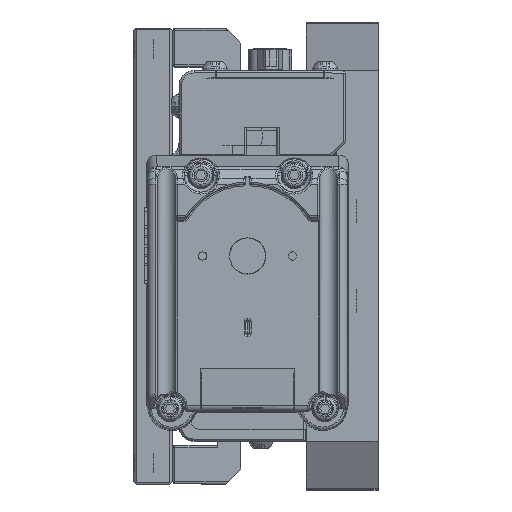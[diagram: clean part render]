
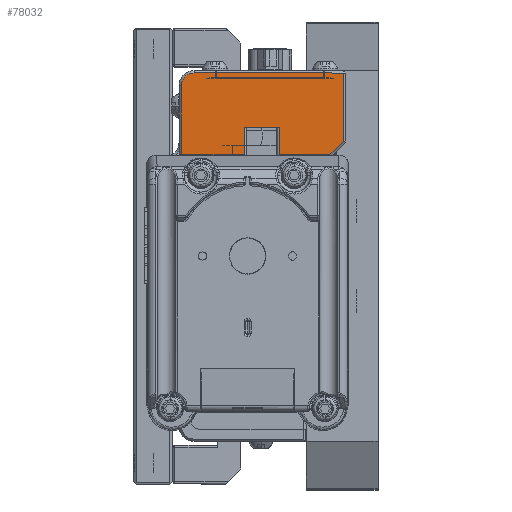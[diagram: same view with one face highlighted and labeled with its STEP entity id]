
A CAD part, left-side view. The second image highlights one B-rep face of the part: STEP entity #78032.
In plain terms, the highlighted planar face has unit normal (-1, 0, 0).
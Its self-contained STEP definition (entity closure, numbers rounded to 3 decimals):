
#346 = VERTEX_POINT ( 'NONE', #107743 ) ;
#4033 = VERTEX_POINT ( 'NONE', #66293 ) ;
#5522 = VECTOR ( 'NONE', #71661, 1000. ) ;
#5894 = VERTEX_POINT ( 'NONE', #94942 ) ;
#6161 = CARTESIAN_POINT ( 'NONE',  ( -73.66, 20.904, 78.486 ) ) ;
#7474 = VERTEX_POINT ( 'NONE', #53202 ) ;
#12364 = FACE_OUTER_BOUND ( 'NONE', #48835, .T. ) ;
#12889 = VERTEX_POINT ( 'NONE', #24476 ) ;
#16060 = ORIENTED_EDGE ( 'NONE', *, *, #55727, .F. ) ;
#19484 = VECTOR ( 'NONE', #31447, 1000. ) ;
#22495 = VECTOR ( 'NONE', #57462, 1000. ) ;
#22528 = VECTOR ( 'NONE', #121976, 1000. ) ;
#23135 = CARTESIAN_POINT ( 'NONE',  ( -73.66, 20.904, 66.548 ) ) ;
#23274 = VERTEX_POINT ( 'NONE', #92313 ) ;
#24476 = CARTESIAN_POINT ( 'NONE',  ( -73.66, 7.315, 77.978 ) ) ;
#24646 = EDGE_CURVE ( 'NONE', #36912, #38122, #68538, .T. ) ;
#25882 = ORIENTED_EDGE ( 'NONE', *, *, #47418, .T. ) ;
#28881 = ORIENTED_EDGE ( 'NONE', *, *, #39155, .T. ) ;
#30409 = LINE ( 'NONE', #114861, #105731 ) ;
#31447 = DIRECTION ( 'NONE',  ( 0., 0., -1. ) ) ;
#31630 = CARTESIAN_POINT ( 'NONE',  ( -73.66, 41.605, 78.486 ) ) ;
#33123 = LINE ( 'NONE', #102601, #85524 ) ;
#36912 = VERTEX_POINT ( 'NONE', #120139 ) ;
#38122 = VERTEX_POINT ( 'NONE', #67389 ) ;
#38228 = EDGE_CURVE ( 'NONE', #23274, #70611, #79398, .T. ) ;
#38963 = EDGE_CURVE ( 'NONE', #70611, #36912, #124159, .T. ) ;
#39155 = EDGE_CURVE ( 'NONE', #4033, #7474, #116374, .T. ) ;
#39965 = EDGE_CURVE ( 'NONE', #7474, #346, #97882, .T. ) ;
#40487 = EDGE_CURVE ( 'NONE', #42821, #23274, #110165, .T. ) ;
#41327 = DIRECTION ( 'NONE',  ( 0., 0., 1. ) ) ;
#42821 = VERTEX_POINT ( 'NONE', #124964 ) ;
#42994 = CARTESIAN_POINT ( 'NONE',  ( -73.66, 42.113, 60.706 ) ) ;
#47418 = EDGE_CURVE ( 'NONE', #12889, #4033, #91509, .T. ) ;
#48686 = EDGE_CURVE ( 'NONE', #5894, #38122, #30409, .T. ) ;
#48835 = EDGE_LOOP ( 'NONE', ( #50731, #62017, #78051, #92868, #100156, #112720, #16060, #25882, #28881, #53509 ) ) ;
#50731 = ORIENTED_EDGE ( 'NONE', *, *, #60474, .T. ) ;
#53059 = VECTOR ( 'NONE', #102840, 1000. ) ;
#53202 = CARTESIAN_POINT ( 'NONE',  ( -73.66, 41.605, 75.311 ) ) ;
#53509 = ORIENTED_EDGE ( 'NONE', *, *, #39965, .T. ) ;
#55727 = EDGE_CURVE ( 'NONE', #12889, #5894, #33123, .T. ) ;
#57462 = DIRECTION ( 'NONE',  ( 0., 0., -1. ) ) ;
#60474 = EDGE_CURVE ( 'NONE', #346, #42821, #94183, .T. ) ;
#61475 = CARTESIAN_POINT ( 'NONE',  ( -73.66, 42.113, 66.548 ) ) ;
#62017 = ORIENTED_EDGE ( 'NONE', *, *, #40487, .T. ) ;
#65122 = VECTOR ( 'NONE', #80424, 1000. ) ;
#66293 = CARTESIAN_POINT ( 'NONE',  ( -73.66, 38.938, 77.978 ) ) ;
#67389 = CARTESIAN_POINT ( 'NONE',  ( -73.66, 10.193, 60.706 ) ) ;
#68538 = LINE ( 'NONE', #121822, #22528 ) ;
#70611 = VERTEX_POINT ( 'NONE', #23135 ) ;
#71661 = DIRECTION ( 'NONE',  ( 0., 0., 1. ) ) ;
#72274 = AXIS2_PLACEMENT_3D ( 'NONE', #78125, #77086, #76966 ) ;
#72655 = DIRECTION ( 'NONE',  ( 0., -1., 0. ) ) ;
#76966 = DIRECTION ( 'NONE',  ( 0., 0., -1. ) ) ;
#77086 = DIRECTION ( 'NONE',  ( -1., 0., 0. ) ) ;
#78032 = ADVANCED_FACE ( 'NONE', ( #12364 ), #99883, .T. ) ;
#78051 = ORIENTED_EDGE ( 'NONE', *, *, #38228, .T. ) ;
#78125 = CARTESIAN_POINT ( 'NONE',  ( -73.66, 38.938, 75.311 ) ) ;
#79398 = LINE ( 'NONE', #61475, #53059 ) ;
#80424 = DIRECTION ( 'NONE',  ( 0., 1., 0. ) ) ;
#80714 = CARTESIAN_POINT ( 'NONE',  ( -73.66, 42.113, 77.978 ) ) ;
#85524 = VECTOR ( 'NONE', #98264, 1000. ) ;
#88072 = VECTOR ( 'NONE', #72655, 1000. ) ;
#90476 = CARTESIAN_POINT ( 'NONE',  ( -73.66, 42.113, 78.486 ) ) ;
#90752 = CARTESIAN_POINT ( 'NONE',  ( -73.66, 28.27, 78.486 ) ) ;
#91509 = LINE ( 'NONE', #80714, #65122 ) ;
#92313 = CARTESIAN_POINT ( 'NONE',  ( -73.66, 28.27, 66.548 ) ) ;
#92868 = ORIENTED_EDGE ( 'NONE', *, *, #38963, .T. ) ;
#94183 = LINE ( 'NONE', #42994, #88072 ) ;
#94942 = CARTESIAN_POINT ( 'NONE',  ( -73.66, 7.315, 63.583 ) ) ;
#97882 = LINE ( 'NONE', #31630, #19484 ) ;
#98264 = DIRECTION ( 'NONE',  ( 0., 0., -1. ) ) ;
#99883 = PLANE ( 'NONE',  #127592 ) ;
#100156 = ORIENTED_EDGE ( 'NONE', *, *, #24646, .T. ) ;
#100292 = DIRECTION ( 'NONE',  ( -1., 0., 0. ) ) ;
#102601 = CARTESIAN_POINT ( 'NONE',  ( -73.66, 7.315, 78.486 ) ) ;
#102840 = DIRECTION ( 'NONE',  ( 0., -1., 0. ) ) ;
#105731 = VECTOR ( 'NONE', #114266, 1000. ) ;
#107743 = CARTESIAN_POINT ( 'NONE',  ( -73.66, 41.605, 60.706 ) ) ;
#110165 = LINE ( 'NONE', #90752, #5522 ) ;
#112720 = ORIENTED_EDGE ( 'NONE', *, *, #48686, .F. ) ;
#114266 = DIRECTION ( 'NONE',  ( 0., 0.707, -0.707 ) ) ;
#114861 = CARTESIAN_POINT ( 'NONE',  ( -73.66, 7.315, 63.583 ) ) ;
#116374 = CIRCLE ( 'NONE', #72274, 2.667 ) ;
#120139 = CARTESIAN_POINT ( 'NONE',  ( -73.66, 20.904, 60.706 ) ) ;
#121822 = CARTESIAN_POINT ( 'NONE',  ( -73.66, 42.113, 60.706 ) ) ;
#121976 = DIRECTION ( 'NONE',  ( 0., -1., 0. ) ) ;
#124159 = LINE ( 'NONE', #6161, #22495 ) ;
#124964 = CARTESIAN_POINT ( 'NONE',  ( -73.66, 28.27, 60.706 ) ) ;
#127592 = AXIS2_PLACEMENT_3D ( 'NONE', #90476, #100292, #41327 ) ;
